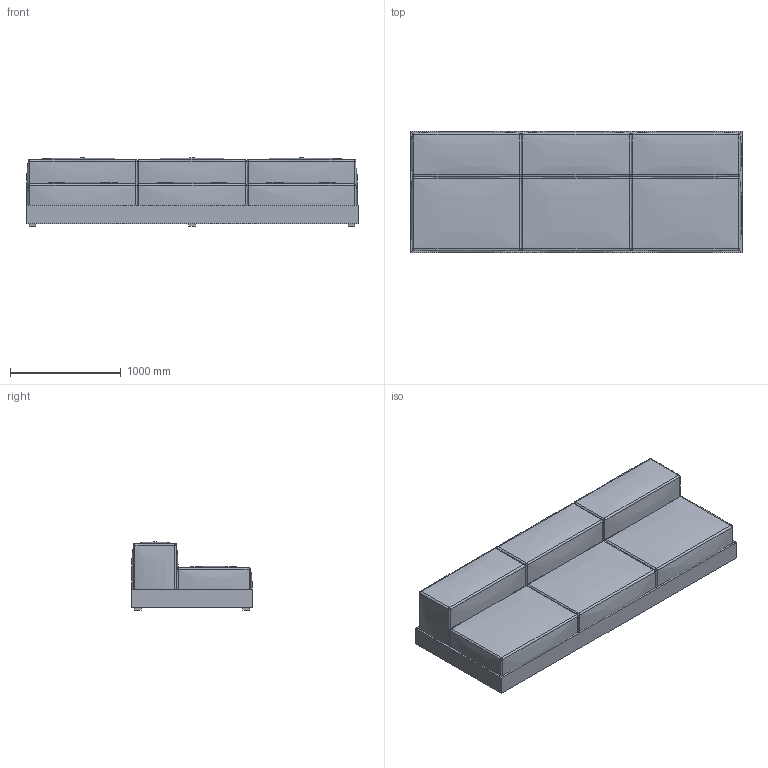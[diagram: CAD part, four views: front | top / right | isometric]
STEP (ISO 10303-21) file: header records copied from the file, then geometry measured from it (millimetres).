
FILE_DESCRIPTION(/* description */ (''),/* implementation_level */ '2;1');
FILE_NAME(/* name */ 'Polp1 300 nob.step',/* time_stamp */ '2024-01-07T10:27:43+01:00',/* author */ (''),/* organization */ (''),/* preprocessor_version */ 'ST-DEVELOPER v20',/* originating_system */ 'Autodesk Translation Framework v12.14.0.127',/* authorisation */ '');
FILE_SCHEMA (('AUTOMOTIVE_DESIGN { 1 0 10303 214 3 1 1 }'));
Length unit declared in the file: millimetre
Products named in the file (7): Polp1 300 nob; Component1; Component2; Component3; Component5; Component6; Component7
Assembly tree (6 placements, depth 2):
  Polp1 300 nob
    Component1
    Component2
    Component3
    Component5
    Component6
    Component7
Bounding box: 3000 x 1100 x 615 mm (x, y, z)
Volume: 1410790533.2 mm3; surface area: 23654573.3 mm2
Topology: 22 solids, 22 shells, 252 faces, 480 edges, 272 vertices
Faces by surface type: plane 113, bspline 76, sphere 48, cylinder 15
Entity records: 14734 total; most frequent: CARTESIAN_POINT 9852, ORIENTED_EDGE 960, DIRECTION 888, EDGE_CURVE 480, AXIS2_PLACEMENT_3D 333, VERTEX_POINT 272, FACE_OUTER_BOUND 252, EDGE_LOOP 252
